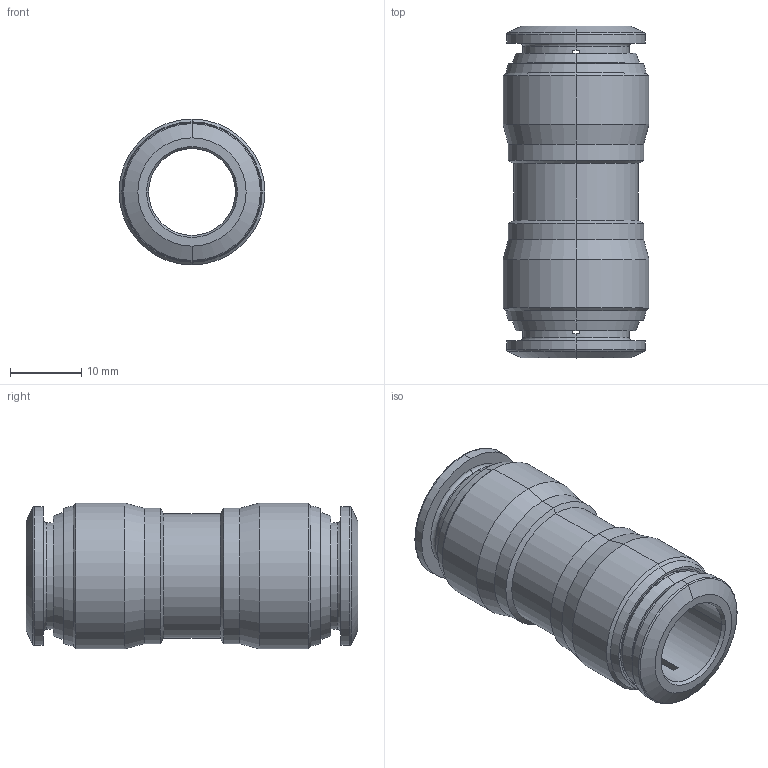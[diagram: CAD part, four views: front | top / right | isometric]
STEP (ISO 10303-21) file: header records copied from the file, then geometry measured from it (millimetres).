
FILE_DESCRIPTION (( 'STEP AP214' ), '1' );
FILE_NAME ('40040V0007A.STEP', '2016-05-16T13:12:39', ( '' ), ( '' ), 'SwSTEP 2.0', 'SolidWorks 2016', '' );
FILE_SCHEMA (( 'AUTOMOTIVE_DESIGN' ));
Length unit declared in the file: millimetre
Products named in the file (1): 40040V0007A
Bounding box: 20.5 x 46.6 x 20.5 mm (x, y, z)
Surface area: 5344.7 mm2 (no closed solid volume)
Topology: 0 solids, 5 shells, 88 faces, 242 edges, 156 vertices
Faces by surface type: cone 32, cylinder 30, plane 18, torus 8
Entity records: 3789 total; most frequent: DIRECTION 536, CARTESIAN_POINT 511, ORIENTED_EDGE 408, EDGE_CURVE 242, AXIS2_PLACEMENT_3D 213, VERTEX_POINT 156, CIRCLE 124, VECTOR 110
